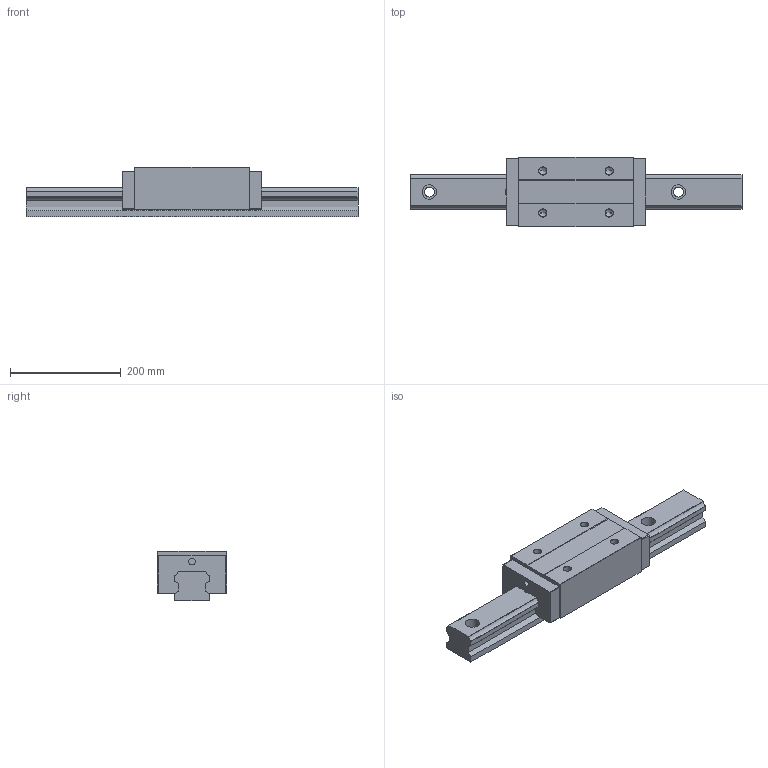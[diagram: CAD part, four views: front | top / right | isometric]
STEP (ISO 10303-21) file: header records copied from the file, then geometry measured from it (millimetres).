
FILE_DESCRIPTION (( 'STEP AP203' ), '1' );
FILE_NAME ('TRH65VE-XNC.STEP', '2024-08-16T06:56:52', ( '' ), ( '' ), 'SwSTEP 2.0', 'SolidWorks 2021', '' );
FILE_SCHEMA (( 'CONFIG_CONTROL_DESIGN' ));
Length unit declared in the file: millimetre
Products named in the file (1): TRH65VE-XNC
Bounding box: 600 x 126 x 90 mm (x, y, z)
Volume: 3511520.5 mm3; surface area: 292467.6 mm2
Topology: 1 solids, 1 shells, 155 faces, 432 edges, 276 vertices
Faces by surface type: plane 75, cylinder 64, cone 16
Entity records: 5019 total; most frequent: DIRECTION 876, CARTESIAN_POINT 856, ORIENTED_EDGE 848, EDGE_CURVE 424, AXIS2_PLACEMENT_3D 296, VECTOR 284, LINE 284, VERTEX_POINT 276
